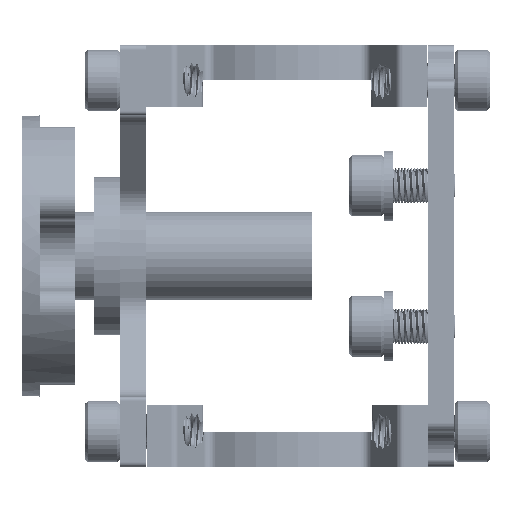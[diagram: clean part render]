
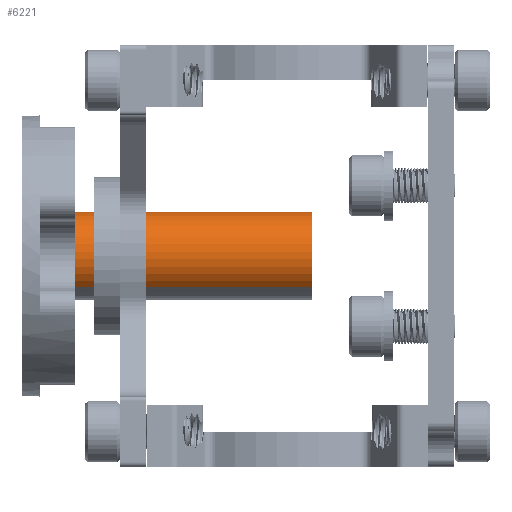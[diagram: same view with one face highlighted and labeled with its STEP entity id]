
A CAD part, left-side view. The second image highlights one B-rep face of the part: STEP entity #6221.
In plain terms, the highlighted cylindrical face has radius 5 mm (diameter 10 mm), a partial arc.
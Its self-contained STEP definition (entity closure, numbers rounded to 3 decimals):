
#6221 = ADVANCED_FACE ( 'NONE', ( #86871 ), #89481, .T. ) ;
#8253 = CARTESIAN_POINT ( 'NONE',  ( 0., 33., 5. ) ) ;
#10839 = CARTESIAN_POINT ( 'NONE',  ( 0., 33., 0. ) ) ;
#11499 = DIRECTION ( 'NONE',  ( 0., 0., 1. ) ) ;
#13334 = AXIS2_PLACEMENT_3D ( 'NONE', #10839, #78256, #86324 ) ;
#13810 = CARTESIAN_POINT ( 'NONE',  ( 0., 6., -5. ) ) ;
#16195 = DIRECTION ( 'NONE',  ( 0., -1., 0. ) ) ;
#18304 = ORIENTED_EDGE ( 'NONE', *, *, #80031, .F. ) ;
#24510 = DIRECTION ( 'NONE',  ( 0., 1., 0. ) ) ;
#25795 = LINE ( 'NONE', #8253, #46602 ) ;
#27014 = CARTESIAN_POINT ( 'NONE',  ( 0., 33., -5. ) ) ;
#28094 = CIRCLE ( 'NONE', #38998, 5. ) ;
#31309 = VERTEX_POINT ( 'NONE', #13810 ) ;
#33973 = AXIS2_PLACEMENT_3D ( 'NONE', #103435, #86631, #11499 ) ;
#38998 = AXIS2_PLACEMENT_3D ( 'NONE', #74407, #24510, #40904 ) ;
#40904 = DIRECTION ( 'NONE',  ( 0., 0., 1. ) ) ;
#41435 = DIRECTION ( 'NONE',  ( 0., -1., 0. ) ) ;
#46602 = VECTOR ( 'NONE', #41435, 1000. ) ;
#49370 = CARTESIAN_POINT ( 'NONE',  ( 0., 33., -5. ) ) ;
#50858 = EDGE_CURVE ( 'NONE', #102184, #88743, #83691, .T. ) ;
#61444 = ORIENTED_EDGE ( 'NONE', *, *, #106012, .T. ) ;
#65609 = ORIENTED_EDGE ( 'NONE', *, *, #50858, .F. ) ;
#67756 = CARTESIAN_POINT ( 'NONE',  ( 0., 33., 5. ) ) ;
#74407 = CARTESIAN_POINT ( 'NONE',  ( 0., 6., 0. ) ) ;
#75664 = CARTESIAN_POINT ( 'NONE',  ( 0., 6., 5. ) ) ;
#78256 = DIRECTION ( 'NONE',  ( 0., -1., 0. ) ) ;
#79019 = EDGE_CURVE ( 'NONE', #102184, #31309, #91060, .T. ) ;
#80028 = VERTEX_POINT ( 'NONE', #75664 ) ;
#80031 = EDGE_CURVE ( 'NONE', #88743, #80028, #25795, .T. ) ;
#83691 = CIRCLE ( 'NONE', #33973, 5. ) ;
#86324 = DIRECTION ( 'NONE',  ( 0., 0., -1. ) ) ;
#86631 = DIRECTION ( 'NONE',  ( 0., 1., 0. ) ) ;
#86871 = FACE_OUTER_BOUND ( 'NONE', #107174, .T. ) ;
#88743 = VERTEX_POINT ( 'NONE', #67756 ) ;
#89481 = CYLINDRICAL_SURFACE ( 'NONE', #13334, 5. ) ;
#91060 = LINE ( 'NONE', #49370, #94952 ) ;
#94952 = VECTOR ( 'NONE', #16195, 1000. ) ;
#102184 = VERTEX_POINT ( 'NONE', #27014 ) ;
#102228 = ORIENTED_EDGE ( 'NONE', *, *, #79019, .T. ) ;
#103435 = CARTESIAN_POINT ( 'NONE',  ( 0., 33., 0. ) ) ;
#106012 = EDGE_CURVE ( 'NONE', #31309, #80028, #28094, .T. ) ;
#107174 = EDGE_LOOP ( 'NONE', ( #18304, #65609, #102228, #61444 ) ) ;
